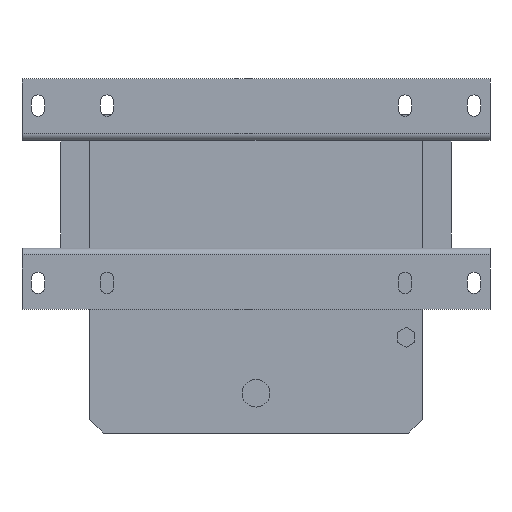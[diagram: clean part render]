
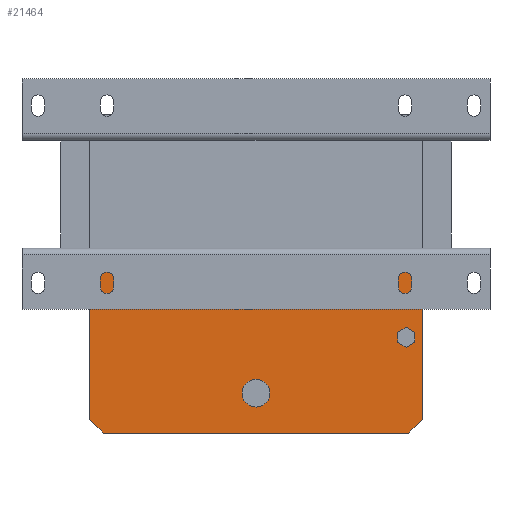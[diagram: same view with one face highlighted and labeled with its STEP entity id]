
A CAD part, front view. The second image highlights one B-rep face of the part: STEP entity #21464.
In plain terms, the highlighted planar face has unit normal (0, -1, 0).
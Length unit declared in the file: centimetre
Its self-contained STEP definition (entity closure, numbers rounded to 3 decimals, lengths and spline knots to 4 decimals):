
#236 = VECTOR ( 'NONE', #19565, 100. ) ;
#676 = CARTESIAN_POINT ( 'NONE',  ( 11.3, 4.8, -10.0144 ) ) ;
#931 = CARTESIAN_POINT ( 'NONE',  ( -12.5, 4.8, -4.465 ) ) ;
#1071 = ORIENTED_EDGE ( 'NONE', *, *, #26448, .F. ) ;
#1288 = FACE_OUTER_BOUND ( 'NONE', #26175, .T. ) ;
#2564 = CARTESIAN_POINT ( 'NONE',  ( 12.5, 4.8, -5.065 ) ) ;
#2578 = VECTOR ( 'NONE', #17721, 100. ) ;
#3711 = CARTESIAN_POINT ( 'NONE',  ( 12.5, 4.8, -5.065 ) ) ;
#3792 = EDGE_CURVE ( 'NONE', #29815, #18132, #30189, .T. ) ;
#4033 = VECTOR ( 'NONE', #15301, 100. ) ;
#4179 = VERTEX_POINT ( 'NONE', #32674 ) ;
#4549 = CARTESIAN_POINT ( 'NONE',  ( 0., 4.8, -16.015 ) ) ;
#4607 = CARTESIAN_POINT ( 'NONE',  ( 10.65, 4.8, -10.3897 ) ) ;
#5557 = ORIENTED_EDGE ( 'NONE', *, *, #12888, .T. ) ;
#5669 = ORIENTED_EDGE ( 'NONE', *, *, #13262, .F. ) ;
#5767 = CARTESIAN_POINT ( 'NONE',  ( 11.5, 4.8, -17.965 ) ) ;
#5976 = ORIENTED_EDGE ( 'NONE', *, *, #32155, .T. ) ;
#6215 = EDGE_CURVE ( 'NONE', #15004, #32160, #14681, .T. ) ;
#6431 = DIRECTION ( 'NONE',  ( 0.707, 0., 0.707 ) ) ;
#6496 = CARTESIAN_POINT ( 'NONE',  ( 11.95, 4.8, -11.1403 ) ) ;
#6570 = DIRECTION ( 'NONE',  ( -1., 0., 0. ) ) ;
#6877 = ORIENTED_EDGE ( 'NONE', *, *, #10627, .F. ) ;
#7456 = AXIS2_PLACEMENT_3D ( 'NONE', #16209, #13708, #21732 ) ;
#7714 = DIRECTION ( 'NONE',  ( -0.866, 0., -0.5 ) ) ;
#8104 = LINE ( 'NONE', #3711, #12727 ) ;
#8197 = ORIENTED_EDGE ( 'NONE', *, *, #27291, .F. ) ;
#8240 = ORIENTED_EDGE ( 'NONE', *, *, #30616, .F. ) ;
#8245 = VERTEX_POINT ( 'NONE', #23848 ) ;
#8514 = FACE_BOUND ( 'NONE', #11965, .T. ) ;
#8839 = FACE_BOUND ( 'NONE', #30143, .T. ) ;
#9811 = DIRECTION ( 'NONE',  ( 0., 0., -1. ) ) ;
#10017 = LINE ( 'NONE', #12707, #2578 ) ;
#10368 = CARTESIAN_POINT ( 'NONE',  ( 10.65, 4.8, -11.1403 ) ) ;
#10568 = VERTEX_POINT ( 'NONE', #15203 ) ;
#10627 = EDGE_CURVE ( 'NONE', #21665, #4179, #10017, .T. ) ;
#10727 = CARTESIAN_POINT ( 'NONE',  ( 0., 4.8, -14.965 ) ) ;
#10868 = VERTEX_POINT ( 'NONE', #24756 ) ;
#10874 = VERTEX_POINT ( 'NONE', #19047 ) ;
#11512 = PLANE ( 'NONE',  #7456 ) ;
#11965 = EDGE_LOOP ( 'NONE', ( #13811, #16876 ) ) ;
#12347 = CARTESIAN_POINT ( 'NONE',  ( 11.3, 4.8, -11.5156 ) ) ;
#12436 = DIRECTION ( 'NONE',  ( 0.707, 0., -0.707 ) ) ;
#12602 = LINE ( 'NONE', #33050, #29757 ) ;
#12707 = CARTESIAN_POINT ( 'NONE',  ( 11.3, 4.8, -11.5156 ) ) ;
#12727 = VECTOR ( 'NONE', #6570, 100. ) ;
#12745 = DIRECTION ( 'NONE',  ( 0., -1., 0. ) ) ;
#12888 = EDGE_CURVE ( 'NONE', #29815, #10568, #8104, .T. ) ;
#13238 = DIRECTION ( 'NONE',  ( 0., 0., 1. ) ) ;
#13262 = EDGE_CURVE ( 'NONE', #8245, #15004, #26178, .T. ) ;
#13356 = CARTESIAN_POINT ( 'NONE',  ( 0., 4.8, -14.965 ) ) ;
#13708 = DIRECTION ( 'NONE',  ( 0., 1., 0. ) ) ;
#13811 = ORIENTED_EDGE ( 'NONE', *, *, #28567, .F. ) ;
#14539 = LINE ( 'NONE', #6496, #14753 ) ;
#14634 = CARTESIAN_POINT ( 'NONE',  ( 11.5, 4.8, -17.965 ) ) ;
#14681 = LINE ( 'NONE', #4607, #31526 ) ;
#14704 = VECTOR ( 'NONE', #15565, 100. ) ;
#14753 = VECTOR ( 'NONE', #24770, 100. ) ;
#14826 = CARTESIAN_POINT ( 'NONE',  ( 0., 4.8, -13.915 ) ) ;
#15004 = VERTEX_POINT ( 'NONE', #31333 ) ;
#15203 = CARTESIAN_POINT ( 'NONE',  ( -12.5, 4.8, -5.065 ) ) ;
#15301 = DIRECTION ( 'NONE',  ( 0.866, 0., -0.5 ) ) ;
#15406 = EDGE_CURVE ( 'NONE', #15580, #18132, #26246, .T. ) ;
#15565 = DIRECTION ( 'NONE',  ( 0., 0., -1. ) ) ;
#15580 = VERTEX_POINT ( 'NONE', #14634 ) ;
#15892 = CIRCLE ( 'NONE', #18549, 1.05 ) ;
#16209 = CARTESIAN_POINT ( 'NONE',  ( 12.5, 4.8, -4.465 ) ) ;
#16876 = ORIENTED_EDGE ( 'NONE', *, *, #23370, .F. ) ;
#16928 = VECTOR ( 'NONE', #27679, 100. ) ;
#17721 = DIRECTION ( 'NONE',  ( 0.866, 0., 0.5 ) ) ;
#18132 = VERTEX_POINT ( 'NONE', #33004 ) ;
#18549 = AXIS2_PLACEMENT_3D ( 'NONE', #13356, #23746, #31776 ) ;
#19047 = CARTESIAN_POINT ( 'NONE',  ( -11.5, 4.8, -17.965 ) ) ;
#19408 = VECTOR ( 'NONE', #6431, 100. ) ;
#19409 = ORIENTED_EDGE ( 'NONE', *, *, #3792, .F. ) ;
#19565 = DIRECTION ( 'NONE',  ( -0.866, 0., 0.5 ) ) ;
#20498 = VECTOR ( 'NONE', #7714, 100. ) ;
#20757 = CIRCLE ( 'NONE', #25061, 1.05 ) ;
#21074 = ORIENTED_EDGE ( 'NONE', *, *, #25732, .F. ) ;
#21364 = VERTEX_POINT ( 'NONE', #23088 ) ;
#21464 = ADVANCED_FACE ( 'NONE', ( #8514, #1288, #8839 ), #11512, .F. ) ;
#21665 = VERTEX_POINT ( 'NONE', #12347 ) ;
#21732 = DIRECTION ( 'NONE',  ( 0., 0., 1. ) ) ;
#22223 = ORIENTED_EDGE ( 'NONE', *, *, #31865, .T. ) ;
#23088 = CARTESIAN_POINT ( 'NONE',  ( -12.5, 4.8, -16.965 ) ) ;
#23370 = EDGE_CURVE ( 'NONE', #23599, #28866, #20757, .T. ) ;
#23376 = CARTESIAN_POINT ( 'NONE',  ( 12.5, 4.8, -17.965 ) ) ;
#23555 = LINE ( 'NONE', #23376, #27534 ) ;
#23599 = VERTEX_POINT ( 'NONE', #4549 ) ;
#23746 = DIRECTION ( 'NONE',  ( 0., -1., 0. ) ) ;
#23848 = CARTESIAN_POINT ( 'NONE',  ( 11.3, 4.8, -10.0144 ) ) ;
#24756 = CARTESIAN_POINT ( 'NONE',  ( 11.95, 4.8, -10.3897 ) ) ;
#24770 = DIRECTION ( 'NONE',  ( 0., 0., 1. ) ) ;
#25061 = AXIS2_PLACEMENT_3D ( 'NONE', #10727, #12745, #13238 ) ;
#25717 = CARTESIAN_POINT ( 'NONE',  ( 10.65, 4.8, -11.1403 ) ) ;
#25732 = EDGE_CURVE ( 'NONE', #15580, #10874, #23555, .T. ) ;
#26175 = EDGE_LOOP ( 'NONE', ( #22223, #21074, #27963, #19409, #5557, #5976 ) ) ;
#26178 = LINE ( 'NONE', #676, #20498 ) ;
#26246 = LINE ( 'NONE', #5767, #19408 ) ;
#26448 = EDGE_CURVE ( 'NONE', #10868, #8245, #29488, .T. ) ;
#27291 = EDGE_CURVE ( 'NONE', #4179, #10868, #14539, .T. ) ;
#27534 = VECTOR ( 'NONE', #30914, 100. ) ;
#27679 = DIRECTION ( 'NONE',  ( 0., 0., -1. ) ) ;
#27963 = ORIENTED_EDGE ( 'NONE', *, *, #15406, .T. ) ;
#28049 = LINE ( 'NONE', #25717, #4033 ) ;
#28318 = LINE ( 'NONE', #931, #14704 ) ;
#28567 = EDGE_CURVE ( 'NONE', #28866, #23599, #15892, .T. ) ;
#28866 = VERTEX_POINT ( 'NONE', #14826 ) ;
#29488 = LINE ( 'NONE', #32485, #236 ) ;
#29757 = VECTOR ( 'NONE', #12436, 100. ) ;
#29815 = VERTEX_POINT ( 'NONE', #2564 ) ;
#30143 = EDGE_LOOP ( 'NONE', ( #1071, #8197, #6877, #8240, #32298, #5669 ) ) ;
#30189 = LINE ( 'NONE', #32534, #16928 ) ;
#30616 = EDGE_CURVE ( 'NONE', #32160, #21665, #28049, .T. ) ;
#30914 = DIRECTION ( 'NONE',  ( -1., 0., 0. ) ) ;
#31333 = CARTESIAN_POINT ( 'NONE',  ( 10.65, 4.8, -10.3897 ) ) ;
#31526 = VECTOR ( 'NONE', #9811, 100. ) ;
#31776 = DIRECTION ( 'NONE',  ( 0., 0., 1. ) ) ;
#31865 = EDGE_CURVE ( 'NONE', #21364, #10874, #12602, .T. ) ;
#32155 = EDGE_CURVE ( 'NONE', #10568, #21364, #28318, .T. ) ;
#32160 = VERTEX_POINT ( 'NONE', #10368 ) ;
#32298 = ORIENTED_EDGE ( 'NONE', *, *, #6215, .F. ) ;
#32485 = CARTESIAN_POINT ( 'NONE',  ( 11.95, 4.8, -10.3897 ) ) ;
#32534 = CARTESIAN_POINT ( 'NONE',  ( 12.5, 4.8, -4.465 ) ) ;
#32674 = CARTESIAN_POINT ( 'NONE',  ( 11.95, 4.8, -11.1403 ) ) ;
#33004 = CARTESIAN_POINT ( 'NONE',  ( 12.5, 4.8, -16.965 ) ) ;
#33050 = CARTESIAN_POINT ( 'NONE',  ( -12.5, 4.8, -16.965 ) ) ;
